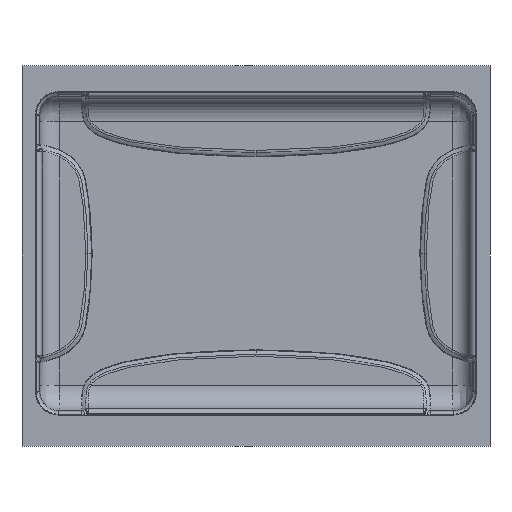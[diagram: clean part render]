
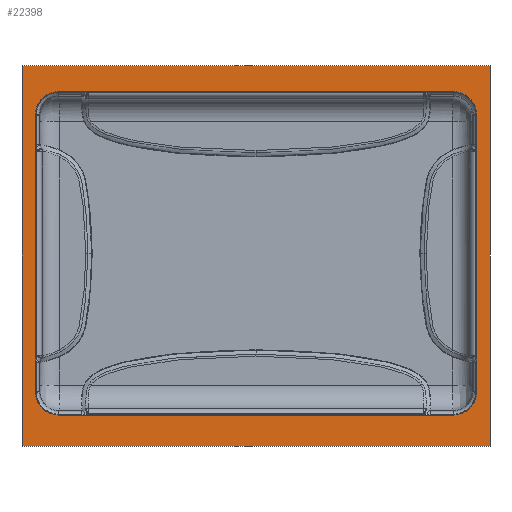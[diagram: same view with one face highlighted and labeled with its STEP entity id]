
A CAD part, front view. The second image highlights one B-rep face of the part: STEP entity #22398.
In plain terms, the highlighted planar face has unit normal (0, -1, 0).
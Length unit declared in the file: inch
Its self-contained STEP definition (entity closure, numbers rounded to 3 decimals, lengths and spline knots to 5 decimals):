
#422 = EDGE_CURVE ( 'NONE', #11012, #11013, #22385, .T. ) ;
#424 = EDGE_CURVE ( 'NONE', #11014, #10997, #22386, .T. ) ;
#425 = EDGE_CURVE ( 'NONE', #10997, #11012, #4129, .T. ) ;
#426 = EDGE_CURVE ( 'NONE', #10998, #11006, #4128, .T. ) ;
#427 = EDGE_CURVE ( 'NONE', #11006, #11009, #22380, .T. ) ;
#428 = EDGE_CURVE ( 'NONE', #11009, #11014, #4137, .T. ) ;
#429 = EDGE_CURVE ( 'NONE', #11008, #10998, #22378, .T. ) ;
#433 = EDGE_CURVE ( 'NONE', #11013, #11008, #4149, .T. ) ;
#463 = EDGE_CURVE ( 'NONE', #10999, #11003, #21448, .T. ) ;
#464 = EDGE_CURVE ( 'NONE', #11004, #10996, #21446, .T. ) ;
#465 = EDGE_CURVE ( 'NONE', #10996, #10999, #21452, .T. ) ;
#466 = EDGE_CURVE ( 'NONE', #11003, #11004, #21455, .T. ) ;
#4123 = CARTESIAN_POINT ( 'NONE',  ( 8.305, 0., 5.83 ) ) ;
#4124 = DIRECTION ( 'NONE',  ( 0., -1., 0. ) ) ;
#4125 = DIRECTION ( 'NONE',  ( 0., 0., -1. ) ) ;
#4126 = CARTESIAN_POINT ( 'NONE',  ( 9.26994, 0., -8.1 ) ) ;
#4128 = LINE ( 'NONE', #4134, #22382 ) ;
#4129 = LINE ( 'NONE', #4126, #22383 ) ;
#4130 = CARTESIAN_POINT ( 'NONE',  ( 8.305, 0., -5.83 ) ) ;
#4131 = DIRECTION ( 'NONE',  ( 0., -1., 0. ) ) ;
#4132 = DIRECTION ( 'NONE',  ( 0., 0., -1. ) ) ;
#4133 = DIRECTION ( 'NONE',  ( 0., 0., 1. ) ) ;
#4134 = CARTESIAN_POINT ( 'NONE',  ( -9.26994, 0., -8.1 ) ) ;
#4135 = CARTESIAN_POINT ( 'NONE',  ( -9.835, 0., -6.79494 ) ) ;
#4136 = DIRECTION ( 'NONE',  ( 0., 0., -1. ) ) ;
#4137 = LINE ( 'NONE', #4135, #22379 ) ;
#4138 = CARTESIAN_POINT ( 'NONE',  ( -8.305, 0., -5.83 ) ) ;
#4139 = DIRECTION ( 'NONE',  ( 0., -1., 0. ) ) ;
#4140 = DIRECTION ( 'NONE',  ( 0., 0., -1. ) ) ;
#4142 = DIRECTION ( 'NONE',  ( 1., 0., 0. ) ) ;
#4146 = CARTESIAN_POINT ( 'NONE',  ( -8.305, 0., 5.83 ) ) ;
#4147 = DIRECTION ( 'NONE',  ( 0., -1., 0. ) ) ;
#4148 = DIRECTION ( 'NONE',  ( 0., 0., -1. ) ) ;
#4149 = LINE ( 'NONE', #4156, #22372 ) ;
#4156 = CARTESIAN_POINT ( 'NONE',  ( -9.835, 0., 6.79494 ) ) ;
#4158 = DIRECTION ( 'NONE',  ( -1., 0., 0. ) ) ;
#10810 = EDGE_LOOP ( 'NONE', ( #15628, #15629, #15630, #15631 ) ) ;
#10814 = EDGE_LOOP ( 'NONE', ( #15620, #15621, #15622, #15623, #15624, #15625, #15626, #15627 ) ) ;
#10996 = VERTEX_POINT ( 'NONE', #15711 ) ;
#10997 = VERTEX_POINT ( 'NONE', #15687 ) ;
#10998 = VERTEX_POINT ( 'NONE', #15712 ) ;
#10999 = VERTEX_POINT ( 'NONE', #15688 ) ;
#11003 = VERTEX_POINT ( 'NONE', #15716 ) ;
#11004 = VERTEX_POINT ( 'NONE', #15684 ) ;
#11006 = VERTEX_POINT ( 'NONE', #15718 ) ;
#11008 = VERTEX_POINT ( 'NONE', #15719 ) ;
#11009 = VERTEX_POINT ( 'NONE', #15720 ) ;
#11012 = VERTEX_POINT ( 'NONE', #15723 ) ;
#11013 = VERTEX_POINT ( 'NONE', #15724 ) ;
#11014 = VERTEX_POINT ( 'NONE', #15725 ) ;
#15620 = ORIENTED_EDGE ( 'NONE', *, *, #433, .F. ) ;
#15621 = ORIENTED_EDGE ( 'NONE', *, *, #422, .F. ) ;
#15622 = ORIENTED_EDGE ( 'NONE', *, *, #425, .F. ) ;
#15623 = ORIENTED_EDGE ( 'NONE', *, *, #424, .F. ) ;
#15624 = ORIENTED_EDGE ( 'NONE', *, *, #428, .F. ) ;
#15625 = ORIENTED_EDGE ( 'NONE', *, *, #427, .F. ) ;
#15626 = ORIENTED_EDGE ( 'NONE', *, *, #426, .F. ) ;
#15627 = ORIENTED_EDGE ( 'NONE', *, *, #429, .F. ) ;
#15628 = ORIENTED_EDGE ( 'NONE', *, *, #463, .T. ) ;
#15629 = ORIENTED_EDGE ( 'NONE', *, *, #466, .T. ) ;
#15630 = ORIENTED_EDGE ( 'NONE', *, *, #464, .T. ) ;
#15631 = ORIENTED_EDGE ( 'NONE', *, *, #465, .T. ) ;
#15684 = CARTESIAN_POINT ( 'NONE',  ( 9.835, 0., -8.1 ) ) ;
#15687 = CARTESIAN_POINT ( 'NONE',  ( 9.26994, 0., -5.83 ) ) ;
#15688 = CARTESIAN_POINT ( 'NONE',  ( -9.835, 0., 7.87625 ) ) ;
#15711 = CARTESIAN_POINT ( 'NONE',  ( 9.835, 0., 7.87625 ) ) ;
#15712 = CARTESIAN_POINT ( 'NONE',  ( -9.26994, 0., 5.83 ) ) ;
#15716 = CARTESIAN_POINT ( 'NONE',  ( -9.835, 0., -8.1 ) ) ;
#15718 = CARTESIAN_POINT ( 'NONE',  ( -9.26994, 0., -5.83 ) ) ;
#15719 = CARTESIAN_POINT ( 'NONE',  ( -8.305, 0., 6.79494 ) ) ;
#15720 = CARTESIAN_POINT ( 'NONE',  ( -8.305, 0., -6.79494 ) ) ;
#15723 = CARTESIAN_POINT ( 'NONE',  ( 9.26994, 0., 5.83 ) ) ;
#15724 = CARTESIAN_POINT ( 'NONE',  ( 8.305, 0., 6.79494 ) ) ;
#15725 = CARTESIAN_POINT ( 'NONE',  ( 8.305, 0., -6.79494 ) ) ;
#15851 = CARTESIAN_POINT ( 'NONE',  ( -9.835, 0., -8.1 ) ) ;
#15856 = FACE_OUTER_BOUND ( 'NONE', #10810, .T. ) ;
#15860 = FACE_BOUND ( 'NONE', #10814, .T. ) ;
#15861 = PLANE ( 'NONE',  #17131 ) ;
#15863 = DIRECTION ( 'NONE',  ( 0., -1., 0. ) ) ;
#15864 = DIRECTION ( 'NONE',  ( 0., 0., -1. ) ) ;
#17131 = AXIS2_PLACEMENT_3D ( 'NONE', #15851, #15863, #15864 ) ;
#21444 = CARTESIAN_POINT ( 'NONE',  ( 9.835, 0., -8.1 ) ) ;
#21446 = LINE ( 'NONE', #21444, #22347 ) ;
#21448 = LINE ( 'NONE', #21449, #22346 ) ;
#21449 = CARTESIAN_POINT ( 'NONE',  ( -9.835, 0., 7.87625 ) ) ;
#21450 = DIRECTION ( 'NONE',  ( 0., 0., -1. ) ) ;
#21451 = DIRECTION ( 'NONE',  ( 0., 0., 1. ) ) ;
#21452 = LINE ( 'NONE', #21453, #22596 ) ;
#21453 = CARTESIAN_POINT ( 'NONE',  ( 9.835, 0., 7.87625 ) ) ;
#21454 = DIRECTION ( 'NONE',  ( -1., 0., 0. ) ) ;
#21455 = LINE ( 'NONE', #21456, #22598 ) ;
#21456 = CARTESIAN_POINT ( 'NONE',  ( -9.835, 0., -8.1 ) ) ;
#21457 = DIRECTION ( 'NONE',  ( 1., 0., 0. ) ) ;
#22346 = VECTOR ( 'NONE', #21450, 39.37008 ) ;
#22347 = VECTOR ( 'NONE', #21451, 39.37008 ) ;
#22372 = VECTOR ( 'NONE', #4158, 39.37008 ) ;
#22374 = AXIS2_PLACEMENT_3D ( 'NONE', #4146, #4147, #4148 ) ;
#22377 = AXIS2_PLACEMENT_3D ( 'NONE', #4138, #4139, #4140 ) ;
#22378 = CIRCLE ( 'NONE', #22374, 0.96494 ) ;
#22379 = VECTOR ( 'NONE', #4142, 39.37008 ) ;
#22380 = CIRCLE ( 'NONE', #22377, 0.96494 ) ;
#22381 = AXIS2_PLACEMENT_3D ( 'NONE', #4130, #4131, #4132 ) ;
#22382 = VECTOR ( 'NONE', #4136, 39.37008 ) ;
#22383 = VECTOR ( 'NONE', #4133, 39.37008 ) ;
#22385 = CIRCLE ( 'NONE', #22387, 0.96494 ) ;
#22386 = CIRCLE ( 'NONE', #22381, 0.96494 ) ;
#22387 = AXIS2_PLACEMENT_3D ( 'NONE', #4123, #4124, #4125 ) ;
#22398 = ADVANCED_FACE ( 'NONE', ( #15860, #15856 ), #15861, .T. ) ;
#22596 = VECTOR ( 'NONE', #21454, 39.37008 ) ;
#22598 = VECTOR ( 'NONE', #21457, 39.37008 ) ;
